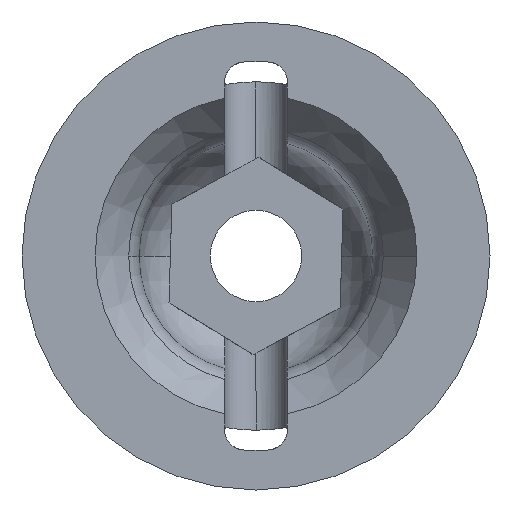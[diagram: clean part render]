
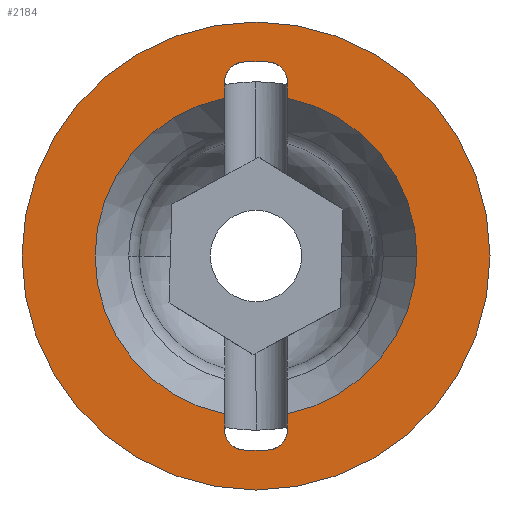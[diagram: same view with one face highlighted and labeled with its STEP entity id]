
A CAD part, left-side view. The second image highlights one B-rep face of the part: STEP entity #2184.
In plain terms, the highlighted planar face has unit normal (-1, 0, 0).
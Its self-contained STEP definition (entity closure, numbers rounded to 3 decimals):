
#1 = EDGE_CURVE ( 'NONE', #1247, #514, #2415, .T. ) ;
#37 = CARTESIAN_POINT ( 'NONE',  ( -1.2, -6.5, -6.8 ) ) ;
#44 = LINE ( 'NONE', #1301, #379 ) ;
#65 = CARTESIAN_POINT ( 'NONE',  ( -1.2, 0.6, 0. ) ) ;
#104 = AXIS2_PLACEMENT_3D ( 'NONE', #449, #936, #1122 ) ;
#112 = ORIENTED_EDGE ( 'NONE', *, *, #441, .T. ) ;
#115 = DIRECTION ( 'NONE',  ( 0., 0., 1. ) ) ;
#173 = DIRECTION ( 'NONE',  ( 1., 0., 0. ) ) ;
#210 = DIRECTION ( 'NONE',  ( 0., -1., 0. ) ) ;
#215 = EDGE_CURVE ( 'NONE', #2062, #1679, #44, .T. ) ;
#233 = DIRECTION ( 'NONE',  ( 0., 0., 1. ) ) ;
#241 = ORIENTED_EDGE ( 'NONE', *, *, #215, .T. ) ;
#278 = CIRCLE ( 'NONE', #2372, 0.7 ) ;
#298 = EDGE_CURVE ( 'NONE', #1568, #2062, #497, .T. ) ;
#347 = VECTOR ( 'NONE', #233, 1000. ) ;
#379 = VECTOR ( 'NONE', #115, 1000. ) ;
#383 = EDGE_LOOP ( 'NONE', ( #241, #112, #2421, #570, #2434, #1446, #856, #1179, #2144, #1888, #1551, #1308, #544 ) ) ;
#393 = EDGE_CURVE ( 'NONE', #1289, #1973, #2324, .T. ) ;
#429 = EDGE_CURVE ( 'NONE', #1973, #1568, #2463, .T. ) ;
#441 = EDGE_CURVE ( 'NONE', #1679, #504, #1286, .T. ) ;
#449 = CARTESIAN_POINT ( 'NONE',  ( -1.2, -7.6, 0. ) ) ;
#497 = CIRCLE ( 'NONE', #1572, 0.7 ) ;
#504 = VERTEX_POINT ( 'NONE', #1536 ) ;
#506 = VECTOR ( 'NONE', #1972, 1000. ) ;
#514 = VERTEX_POINT ( 'NONE', #1788 ) ;
#543 = AXIS2_PLACEMENT_3D ( 'NONE', #977, #1745, #210 ) ;
#544 = ORIENTED_EDGE ( 'NONE', *, *, #298, .T. ) ;
#570 = ORIENTED_EDGE ( 'NONE', *, *, #1309, .T. ) ;
#591 = DIRECTION ( 'NONE',  ( 0., -1., 0. ) ) ;
#612 = VERTEX_POINT ( 'NONE', #2179 ) ;
#621 = CARTESIAN_POINT ( 'NONE',  ( -1.2, -7.6, 0. ) ) ;
#624 = DIRECTION ( 'NONE',  ( 0., -1., 0. ) ) ;
#632 = AXIS2_PLACEMENT_3D ( 'NONE', #816, #1389, #624 ) ;
#651 = EDGE_CURVE ( 'NONE', #2304, #612, #1866, .T. ) ;
#758 = CARTESIAN_POINT ( 'NONE',  ( -1.2, -8.7, -6.8 ) ) ;
#793 = CARTESIAN_POINT ( 'NONE',  ( -1.2, -15.8, 0. ) ) ;
#816 = CARTESIAN_POINT ( 'NONE',  ( -1.2, -7.6, 0. ) ) ;
#823 = CARTESIAN_POINT ( 'NONE',  ( -1.2, -8., -6.8 ) ) ;
#839 = AXIS2_PLACEMENT_3D ( 'NONE', #1142, #1717, #2105 ) ;
#841 = CARTESIAN_POINT ( 'NONE',  ( -1.2, -8.7, -6.8 ) ) ;
#842 = DIRECTION ( 'NONE',  ( 0., 1., 0. ) ) ;
#856 = ORIENTED_EDGE ( 'NONE', *, *, #1306, .F. ) ;
#857 = LINE ( 'NONE', #841, #347 ) ;
#858 = VECTOR ( 'NONE', #2471, 1000. ) ;
#859 = CARTESIAN_POINT ( 'NONE',  ( -1.2, -7.6, 6.8 ) ) ;
#865 = VERTEX_POINT ( 'NONE', #793 ) ;
#898 = CARTESIAN_POINT ( 'NONE',  ( -1.2, -8.7, 5.532 ) ) ;
#933 = DIRECTION ( 'NONE',  ( 0., -1., 0. ) ) ;
#936 = DIRECTION ( 'NONE',  ( -1., 0., 0. ) ) ;
#942 = DIRECTION ( 'NONE',  ( 1., 0., 0. ) ) ;
#959 = VERTEX_POINT ( 'NONE', #2160 ) ;
#977 = CARTESIAN_POINT ( 'NONE',  ( -1.2, -7.6, 0. ) ) ;
#992 = CARTESIAN_POINT ( 'NONE',  ( -1.2, -6.5, -6.1 ) ) ;
#996 = DIRECTION ( 'NONE',  ( 0., 1., 0. ) ) ;
#997 = EDGE_CURVE ( 'NONE', #1289, #959, #857, .T. ) ;
#1008 = CARTESIAN_POINT ( 'NONE',  ( -1.2, -7.2, -6.8 ) ) ;
#1059 = VERTEX_POINT ( 'NONE', #65 ) ;
#1078 = AXIS2_PLACEMENT_3D ( 'NONE', #2094, #173, #1930 ) ;
#1122 = DIRECTION ( 'NONE',  ( 0., -1., 0. ) ) ;
#1128 = CARTESIAN_POINT ( 'NONE',  ( -1.2, -7.2, -6.1 ) ) ;
#1142 = CARTESIAN_POINT ( 'NONE',  ( -1.2, -7.2, 6.1 ) ) ;
#1172 = AXIS2_PLACEMENT_3D ( 'NONE', #1374, #1564, #996 ) ;
#1179 = ORIENTED_EDGE ( 'NONE', *, *, #1, .T. ) ;
#1231 = ORIENTED_EDGE ( 'NONE', *, *, #2309, .F. ) ;
#1247 = VERTEX_POINT ( 'NONE', #898 ) ;
#1286 = CIRCLE ( 'NONE', #543, 5.64 ) ;
#1289 = VERTEX_POINT ( 'NONE', #2283 ) ;
#1300 = AXIS2_PLACEMENT_3D ( 'NONE', #621, #1380, #591 ) ;
#1301 = CARTESIAN_POINT ( 'NONE',  ( -1.2, -6.5, -6.8 ) ) ;
#1306 = EDGE_CURVE ( 'NONE', #1247, #1477, #1862, .T. ) ;
#1307 = CARTESIAN_POINT ( 'NONE',  ( -1.2, -8., -6.1 ) ) ;
#1308 = ORIENTED_EDGE ( 'NONE', *, *, #429, .T. ) ;
#1309 = EDGE_CURVE ( 'NONE', #1358, #612, #2006, .T. ) ;
#1320 = CARTESIAN_POINT ( 'NONE',  ( -1.2, -8., 6.8 ) ) ;
#1353 = LINE ( 'NONE', #37, #506 ) ;
#1358 = VERTEX_POINT ( 'NONE', #1921 ) ;
#1374 = CARTESIAN_POINT ( 'NONE',  ( -1.2, -7.6, 0. ) ) ;
#1380 = DIRECTION ( 'NONE',  ( 1., 0., 0. ) ) ;
#1388 = EDGE_CURVE ( 'NONE', #2304, #1477, #278, .T. ) ;
#1389 = DIRECTION ( 'NONE',  ( 1., 0., 0. ) ) ;
#1417 = EDGE_CURVE ( 'NONE', #865, #1059, #2069, .T. ) ;
#1446 = ORIENTED_EDGE ( 'NONE', *, *, #1388, .T. ) ;
#1477 = VERTEX_POINT ( 'NONE', #2143 ) ;
#1536 = CARTESIAN_POINT ( 'NONE',  ( -1.2, -6.5, 5.532 ) ) ;
#1540 = CARTESIAN_POINT ( 'NONE',  ( -1.2, -8., 6.1 ) ) ;
#1551 = ORIENTED_EDGE ( 'NONE', *, *, #393, .T. ) ;
#1564 = DIRECTION ( 'NONE',  ( 1., 0., 0. ) ) ;
#1568 = VERTEX_POINT ( 'NONE', #1008 ) ;
#1572 = AXIS2_PLACEMENT_3D ( 'NONE', #1128, #942, #2455 ) ;
#1639 = EDGE_LOOP ( 'NONE', ( #1231, #2174 ) ) ;
#1679 = VERTEX_POINT ( 'NONE', #2209 ) ;
#1717 = DIRECTION ( 'NONE',  ( 1., 0., 0. ) ) ;
#1745 = DIRECTION ( 'NONE',  ( 1., 0., 0. ) ) ;
#1748 = DIRECTION ( 'NONE',  ( 0., -1., 0. ) ) ;
#1788 = CARTESIAN_POINT ( 'NONE',  ( -1.2, -13.24, 0. ) ) ;
#1849 = AXIS2_PLACEMENT_3D ( 'NONE', #1307, #2100, #933 ) ;
#1861 = VECTOR ( 'NONE', #842, 1000. ) ;
#1862 = LINE ( 'NONE', #758, #2236 ) ;
#1866 = LINE ( 'NONE', #859, #1861 ) ;
#1874 = FACE_BOUND ( 'NONE', #383, .T. ) ;
#1888 = ORIENTED_EDGE ( 'NONE', *, *, #997, .F. ) ;
#1907 = FACE_OUTER_BOUND ( 'NONE', #1639, .T. ) ;
#1921 = CARTESIAN_POINT ( 'NONE',  ( -1.2, -6.5, 6.1 ) ) ;
#1930 = DIRECTION ( 'NONE',  ( 0., 1., 0. ) ) ;
#1972 = DIRECTION ( 'NONE',  ( 0., 0., 1. ) ) ;
#1973 = VERTEX_POINT ( 'NONE', #823 ) ;
#1987 = EDGE_CURVE ( 'NONE', #514, #959, #2001, .T. ) ;
#2001 = CIRCLE ( 'NONE', #1300, 5.64 ) ;
#2006 = CIRCLE ( 'NONE', #839, 0.7 ) ;
#2062 = VERTEX_POINT ( 'NONE', #992 ) ;
#2069 = CIRCLE ( 'NONE', #1172, 8.2 ) ;
#2094 = CARTESIAN_POINT ( 'NONE',  ( -1.2, -7.6, 0. ) ) ;
#2100 = DIRECTION ( 'NONE',  ( 1., 0., 0. ) ) ;
#2105 = DIRECTION ( 'NONE',  ( 0., -1., 0. ) ) ;
#2128 = CARTESIAN_POINT ( 'NONE',  ( -1.2, -7.6, -6.8 ) ) ;
#2143 = CARTESIAN_POINT ( 'NONE',  ( -1.2, -8.7, 6.1 ) ) ;
#2144 = ORIENTED_EDGE ( 'NONE', *, *, #1987, .T. ) ;
#2151 = DIRECTION ( 'NONE',  ( 1., 0., 0. ) ) ;
#2159 = CIRCLE ( 'NONE', #1078, 8.2 ) ;
#2160 = CARTESIAN_POINT ( 'NONE',  ( -1.2, -8.7, -5.532 ) ) ;
#2174 = ORIENTED_EDGE ( 'NONE', *, *, #1417, .F. ) ;
#2179 = CARTESIAN_POINT ( 'NONE',  ( -1.2, -7.2, 6.8 ) ) ;
#2184 = ADVANCED_FACE ( 'NONE', ( #1874, #1907 ), #2363, .T. ) ;
#2209 = CARTESIAN_POINT ( 'NONE',  ( -1.2, -6.5, -5.532 ) ) ;
#2236 = VECTOR ( 'NONE', #2275, 1000. ) ;
#2275 = DIRECTION ( 'NONE',  ( 0., 0., 1. ) ) ;
#2283 = CARTESIAN_POINT ( 'NONE',  ( -1.2, -8.7, -6.1 ) ) ;
#2304 = VERTEX_POINT ( 'NONE', #1320 ) ;
#2309 = EDGE_CURVE ( 'NONE', #1059, #865, #2159, .T. ) ;
#2324 = CIRCLE ( 'NONE', #1849, 0.7 ) ;
#2363 = PLANE ( 'NONE',  #104 ) ;
#2365 = EDGE_CURVE ( 'NONE', #504, #1358, #1353, .T. ) ;
#2372 = AXIS2_PLACEMENT_3D ( 'NONE', #1540, #2151, #1748 ) ;
#2415 = CIRCLE ( 'NONE', #632, 5.64 ) ;
#2421 = ORIENTED_EDGE ( 'NONE', *, *, #2365, .T. ) ;
#2434 = ORIENTED_EDGE ( 'NONE', *, *, #651, .F. ) ;
#2455 = DIRECTION ( 'NONE',  ( 0., -1., 0. ) ) ;
#2463 = LINE ( 'NONE', #2128, #858 ) ;
#2471 = DIRECTION ( 'NONE',  ( 0., 1., 0. ) ) ;
